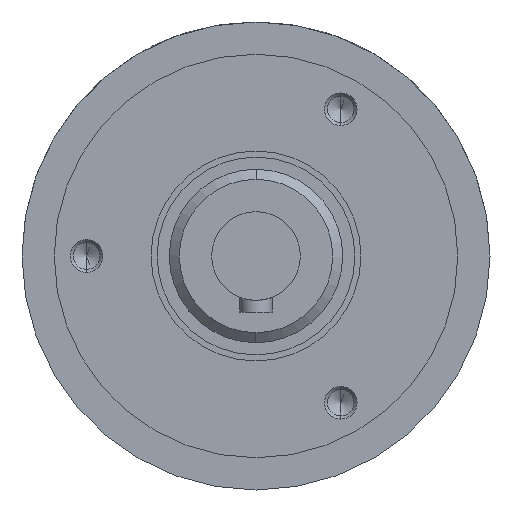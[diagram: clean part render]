
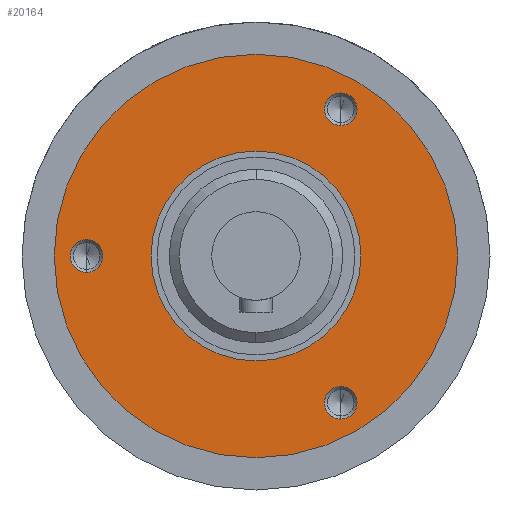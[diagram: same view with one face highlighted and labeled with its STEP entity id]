
A CAD part, left-side view. The second image highlights one B-rep face of the part: STEP entity #20164.
In plain terms, the highlighted planar face has unit normal (-1, 0, 0).
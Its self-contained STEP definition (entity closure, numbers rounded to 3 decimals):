
#79 = DIRECTION ( 'NONE',  ( 0., 0., 1. ) ) ;
#324 = CIRCLE ( 'NONE', #13183, 25. ) ;
#370 = EDGE_CURVE ( 'NONE', #20814, #21144, #5004, .T. ) ;
#409 = ORIENTED_EDGE ( 'NONE', *, *, #14108, .F. ) ;
#425 = ORIENTED_EDGE ( 'NONE', *, *, #10290, .T. ) ;
#860 = CIRCLE ( 'NONE', #6150, 2.025 ) ;
#932 = CARTESIAN_POINT ( 'NONE',  ( -3.622, 14.923, -16.162 ) ) ;
#1247 = AXIS2_PLACEMENT_3D ( 'NONE', #2776, #19167, #11986 ) ;
#1249 = DIRECTION ( 'NONE',  ( 1., 0., 0. ) ) ;
#1419 = DIRECTION ( 'NONE',  ( 0., 0., 1. ) ) ;
#1468 = DIRECTION ( 'NONE',  ( -1., 0., 0. ) ) ;
#2095 = VERTEX_POINT ( 'NONE', #6312 ) ;
#2386 = EDGE_LOOP ( 'NONE', ( #13677, #4267 ) ) ;
#2598 = CIRCLE ( 'NONE', #18800, 2.025 ) ;
#2776 = CARTESIAN_POINT ( 'NONE',  ( -3.622, 14.923, 18.187 ) ) ;
#2951 = CARTESIAN_POINT ( 'NONE',  ( -3.622, 25.423, 25. ) ) ;
#3032 = DIRECTION ( 'NONE',  ( 0., 0., -1. ) ) ;
#3157 = EDGE_LOOP ( 'NONE', ( #425, #9651 ) ) ;
#3220 = ORIENTED_EDGE ( 'NONE', *, *, #3544, .F. ) ;
#3544 = EDGE_CURVE ( 'NONE', #16466, #18073, #20206, .T. ) ;
#3821 = AXIS2_PLACEMENT_3D ( 'NONE', #5472, #7107, #12669 ) ;
#3886 = AXIS2_PLACEMENT_3D ( 'NONE', #5955, #9485, #11379 ) ;
#4105 = ORIENTED_EDGE ( 'NONE', *, *, #6049, .F. ) ;
#4267 = ORIENTED_EDGE ( 'NONE', *, *, #16817, .F. ) ;
#4374 = CARTESIAN_POINT ( 'NONE',  ( -3.622, 25.423, 0. ) ) ;
#5004 = CIRCLE ( 'NONE', #11036, 2.025 ) ;
#5362 = AXIS2_PLACEMENT_3D ( 'NONE', #19793, #7522, #11074 ) ;
#5472 = CARTESIAN_POINT ( 'NONE',  ( -3.622, 25.423, 0. ) ) ;
#5810 = CIRCLE ( 'NONE', #1247, 2.025 ) ;
#5955 = CARTESIAN_POINT ( 'NONE',  ( -3.622, 14.923, -18.187 ) ) ;
#6049 = EDGE_CURVE ( 'NONE', #9957, #12260, #2598, .T. ) ;
#6150 = AXIS2_PLACEMENT_3D ( 'NONE', #13844, #22786, #1419 ) ;
#6278 = AXIS2_PLACEMENT_3D ( 'NONE', #4374, #11579, #13783 ) ;
#6312 = CARTESIAN_POINT ( 'NONE',  ( -3.622, 25.423, -25. ) ) ;
#6638 = DIRECTION ( 'NONE',  ( 0., 0., 1. ) ) ;
#6832 = CARTESIAN_POINT ( 'NONE',  ( -3.622, 25.423, 0. ) ) ;
#6919 = FACE_BOUND ( 'NONE', #2386, .T. ) ;
#7035 = FACE_OUTER_BOUND ( 'NONE', #3157, .T. ) ;
#7107 = DIRECTION ( 'NONE',  ( -1., 0., 0. ) ) ;
#7217 = EDGE_LOOP ( 'NONE', ( #20180, #20775 ) ) ;
#7522 = DIRECTION ( 'NONE',  ( -1., 0., 0. ) ) ;
#8155 = EDGE_CURVE ( 'NONE', #2095, #14977, #11372, .T. ) ;
#8445 = CARTESIAN_POINT ( 'NONE',  ( -3.622, 14.923, -20.212 ) ) ;
#8781 = VERTEX_POINT ( 'NONE', #8445 ) ;
#9485 = DIRECTION ( 'NONE',  ( -1., 0., 0. ) ) ;
#9651 = ORIENTED_EDGE ( 'NONE', *, *, #8155, .T. ) ;
#9949 = CARTESIAN_POINT ( 'NONE',  ( -3.622, 25.423, 0. ) ) ;
#9957 = VERTEX_POINT ( 'NONE', #21553 ) ;
#10290 = EDGE_CURVE ( 'NONE', #14977, #2095, #324, .T. ) ;
#10756 = EDGE_LOOP ( 'NONE', ( #17685, #4105 ) ) ;
#11020 = CIRCLE ( 'NONE', #5362, 2.025 ) ;
#11036 = AXIS2_PLACEMENT_3D ( 'NONE', #17764, #1468, #16002 ) ;
#11074 = DIRECTION ( 'NONE',  ( 0., 0., 1. ) ) ;
#11372 = CIRCLE ( 'NONE', #3821, 25. ) ;
#11379 = DIRECTION ( 'NONE',  ( 0., 0., 1. ) ) ;
#11579 = DIRECTION ( 'NONE',  ( -1., 0., 0. ) ) ;
#11741 = CARTESIAN_POINT ( 'NONE',  ( -3.622, 46.423, 0. ) ) ;
#11858 = DIRECTION ( 'NONE',  ( 0., 0., 1. ) ) ;
#11986 = DIRECTION ( 'NONE',  ( 0., 0., 1. ) ) ;
#12247 = VERTEX_POINT ( 'NONE', #932 ) ;
#12260 = VERTEX_POINT ( 'NONE', #18764 ) ;
#12669 = DIRECTION ( 'NONE',  ( 0., 0., 1. ) ) ;
#13060 = AXIS2_PLACEMENT_3D ( 'NONE', #14248, #1249, #3032 ) ;
#13183 = AXIS2_PLACEMENT_3D ( 'NONE', #9949, #13950, #6638 ) ;
#13677 = ORIENTED_EDGE ( 'NONE', *, *, #14641, .F. ) ;
#13783 = DIRECTION ( 'NONE',  ( 0., 0., 1. ) ) ;
#13844 = CARTESIAN_POINT ( 'NONE',  ( -3.622, 14.923, -18.187 ) ) ;
#13950 = DIRECTION ( 'NONE',  ( -1., 0., 0. ) ) ;
#14033 = DIRECTION ( 'NONE',  ( -1., 0., 0. ) ) ;
#14108 = EDGE_CURVE ( 'NONE', #18073, #16466, #21540, .T. ) ;
#14186 = EDGE_CURVE ( 'NONE', #12260, #9957, #11020, .T. ) ;
#14248 = CARTESIAN_POINT ( 'NONE',  ( -3.622, 50.423, 0. ) ) ;
#14253 = CARTESIAN_POINT ( 'NONE',  ( -3.622, 25.423, 13. ) ) ;
#14641 = EDGE_CURVE ( 'NONE', #12247, #8781, #860, .T. ) ;
#14839 = CIRCLE ( 'NONE', #3886, 2.025 ) ;
#14977 = VERTEX_POINT ( 'NONE', #2951 ) ;
#15644 = CARTESIAN_POINT ( 'NONE',  ( -3.622, 14.923, 16.162 ) ) ;
#15666 = FACE_BOUND ( 'NONE', #15748, .T. ) ;
#15748 = EDGE_LOOP ( 'NONE', ( #3220, #409 ) ) ;
#16002 = DIRECTION ( 'NONE',  ( 0., 0., 1. ) ) ;
#16011 = FACE_BOUND ( 'NONE', #7217, .T. ) ;
#16466 = VERTEX_POINT ( 'NONE', #14253 ) ;
#16817 = EDGE_CURVE ( 'NONE', #8781, #12247, #14839, .T. ) ;
#17617 = EDGE_CURVE ( 'NONE', #21144, #20814, #5810, .T. ) ;
#17685 = ORIENTED_EDGE ( 'NONE', *, *, #14186, .F. ) ;
#17764 = CARTESIAN_POINT ( 'NONE',  ( -3.622, 14.923, 18.187 ) ) ;
#18073 = VERTEX_POINT ( 'NONE', #22069 ) ;
#18764 = CARTESIAN_POINT ( 'NONE',  ( -3.622, 46.423, 2.025 ) ) ;
#18800 = AXIS2_PLACEMENT_3D ( 'NONE', #11741, #21027, #11858 ) ;
#19167 = DIRECTION ( 'NONE',  ( -1., 0., 0. ) ) ;
#19793 = CARTESIAN_POINT ( 'NONE',  ( -3.622, 46.423, 0. ) ) ;
#20164 = ADVANCED_FACE ( 'NONE', ( #6919, #16011, #23186, #15666, #7035 ), #22947, .F. ) ;
#20180 = ORIENTED_EDGE ( 'NONE', *, *, #370, .F. ) ;
#20206 = CIRCLE ( 'NONE', #6278, 13. ) ;
#20775 = ORIENTED_EDGE ( 'NONE', *, *, #17617, .F. ) ;
#20814 = VERTEX_POINT ( 'NONE', #22308 ) ;
#21027 = DIRECTION ( 'NONE',  ( -1., 0., 0. ) ) ;
#21144 = VERTEX_POINT ( 'NONE', #15644 ) ;
#21177 = AXIS2_PLACEMENT_3D ( 'NONE', #6832, #14033, #79 ) ;
#21540 = CIRCLE ( 'NONE', #21177, 13. ) ;
#21553 = CARTESIAN_POINT ( 'NONE',  ( -3.622, 46.423, -2.025 ) ) ;
#22069 = CARTESIAN_POINT ( 'NONE',  ( -3.622, 25.423, -13. ) ) ;
#22308 = CARTESIAN_POINT ( 'NONE',  ( -3.622, 14.923, 20.212 ) ) ;
#22786 = DIRECTION ( 'NONE',  ( -1., 0., 0. ) ) ;
#22947 = PLANE ( 'NONE',  #13060 ) ;
#23186 = FACE_BOUND ( 'NONE', #10756, .T. ) ;
